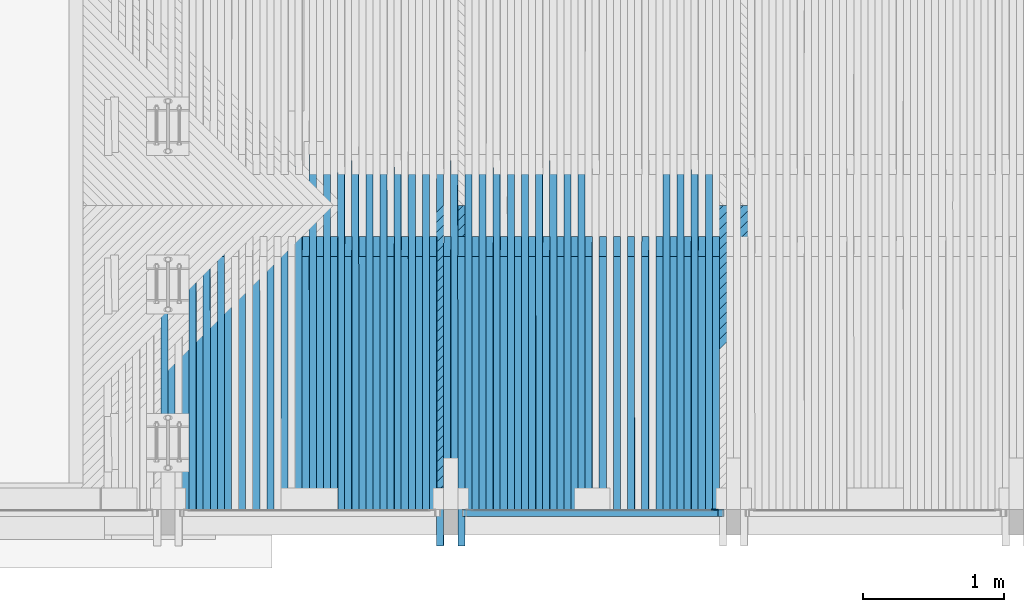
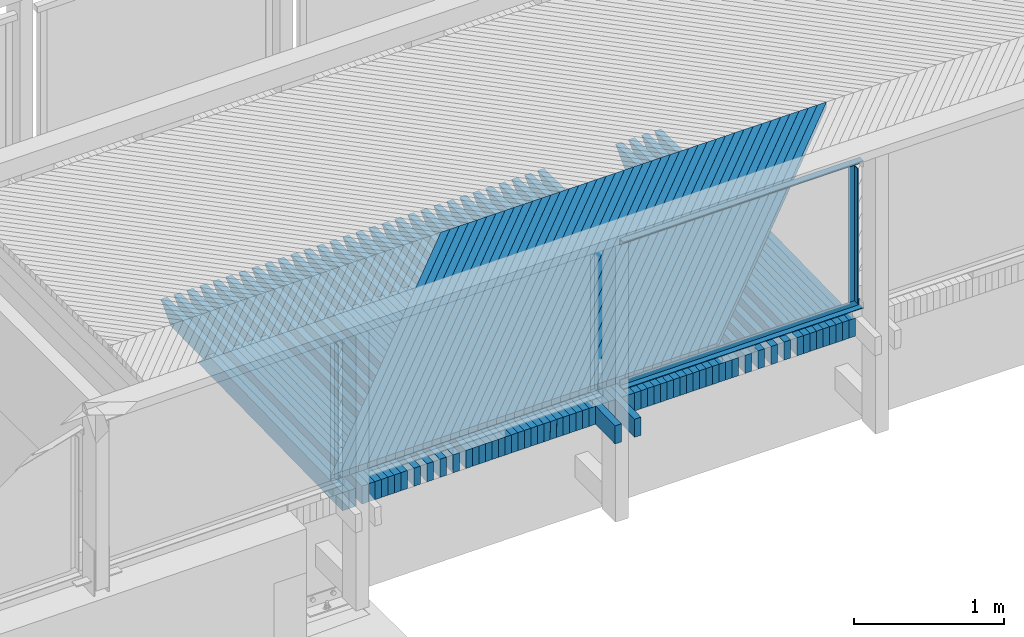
# One storey, part 18 of 65: 113 beams.
"""IFC2X3 building model written with IfcOpenShell, lengths in millimetres."""

from ifc_helpers import new_model, si_unit, frame, origin_with_axes, place, context, subcontext, project, spatial, faceted_brep, material, type_object, element, save


model = new_model("IFC2X3")

# Units and contexts
model_context = context("Model", 3, precision=1e-05, world=origin_with_axes())
body_context = subcontext(model_context, "Body", "Model", "MODEL_VIEW")
ifc_project = project(units=[si_unit("LENGTHUNIT", "METRE", prefix="MILLI"), si_unit("AREAUNIT", "SQUARE_METRE"), si_unit("VOLUMEUNIT", "CUBIC_METRE"), si_unit("MASSUNIT", "GRAM", prefix="KILO"), si_unit("TIMEUNIT", "SECOND"), si_unit("PLANEANGLEUNIT", "RADIAN"), si_unit("SOLIDANGLEUNIT", "STERADIAN"), si_unit("THERMODYNAMICTEMPERATUREUNIT", "DEGREE_CELSIUS"), si_unit("LUMINOUSINTENSITYUNIT", "LUMEN")], contexts=[model_context])

# Site, building, storey
site_placement = place(None, origin_with_axes())
site = spatial("IfcSite", under=ifc_project, at=site_placement, Name="Undefined", CompositionType="ELEMENT")
building_placement = place(site_placement, origin_with_axes())
building = spatial("IfcBuilding", under=site, at=building_placement, Name="Undefined", CompositionType="ELEMENT")
storey_placement = place(building_placement, origin_with_axes())
storey = spatial("IfcBuildingStorey", under=building, at=storey_placement, Name="Undefined", CompositionType="ELEMENT", Elevation=0.0)

# Beams
ifc_material_1 = material(Name="STEEL/S235JR")
beam_type_1 = type_object("IfcBeamType", Name="L50*5", PredefinedType="NOTDEFINED")
beam_1_placement = place(storey_placement, frame((3867.50249484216, 20190.01, 4402.25801106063), z_axis=(0.0, -1.0, 0.0), x_axis=(0.0, 0.0, -1.0)))
element("IfcBeam", 1, at=beam_1_placement, inside=storey, type_object=beam_type_1, material=ifc_material_1, Name="BEAM", ObjectType="L50*5", context=body_context, shape_type="Brep", body=[
    faceted_brep([(0.0, 25.0, -25.0), (0.0, 25.0, 25.0), (1099.9980148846, 25.0, 25.0), (1099.9980148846, 25.0, -25.0), (0.0, 20.0, 25.0), (1099.9980148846, 20.0, 25.0), (0.0, 20.0, -20.0), (1099.9980148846, 20.0, -20.0), (0.0, -25.0, -20.0), (1099.9980148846, -25.0, -20.0), (0.0, -25.0, -25.0), (1099.9980148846, -25.0, -25.0)], [[[0, 1, 2, 3]], [[1, 4, 5, 2]], [[4, 6, 7, 5]], [[6, 8, 9, 7]], [[8, 10, 11, 9]], [[10, 0, 3, 11]], [[5, 7, 9, 11, 3, 2]], [[10, 8, 6, 4, 1, 0]]]),
])
for number, where, z_axis, x_axis, name in (
    (2, (3931.79103918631, 20190.0099999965, 3277.58510184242), (0.0, -1.0, 0.0), (-0.999965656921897, 0.0, -0.00828763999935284), "BEAM"),
    (3, (2083.20214384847, 20190.0099999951, 4412.26318126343), (0.0, -1.0, 0.0), (0.999965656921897, 0.0, 0.00828763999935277), "BEAM"),
):
    element("IfcBeam", number, at=place(storey_placement, frame(where, z_axis=z_axis, x_axis=x_axis)), inside=storey, type_object=beam_type_1, material=ifc_material_1, Name=name, ObjectType="L50*5", context=body_context, shape_type="Brep", body=[
        faceted_brep([(0.0, 25.0, -25.0), (0.0, 25.0, 25.0), (1849.06678002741, 25.0, 25.0), (1849.06678002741, 25.0, -25.0), (0.0, 20.0, 25.0), (1849.06678002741, 20.0, 25.0), (0.0, 20.0, -20.0), (1849.06678002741, 20.0, -20.0), (0.0, -25.0, -20.0), (1849.06678002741, -25.0, -20.0), (0.0, -25.0, -25.0), (1849.06678002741, -25.0, -25.0)], [[[0, 1, 2, 3]], [[1, 4, 5, 2]], [[4, 6, 7, 5]], [[6, 8, 9, 7]], [[8, 10, 11, 9]], [[10, 0, 3, 11]], [[5, 7, 9, 11, 3, 2]], [[10, 8, 6, 4, 1, 0]]]),
    ])
ifc_material_2 = material(Name="TIMBER/Timber_Undefined")
beam_type_2 = type_object("IfcBeamType", Name="50*50", PredefinedType="NOTDEFINED")
for number, where, z_axis, x_axis, name in (
    (4, (1982.89840031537, 22364.5001003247, 3206.05577851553), (0.707207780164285, -0.706981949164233, -0.0058033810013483), (-0.706907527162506, -0.706948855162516, -0.0224736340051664), "BEAM"),
    (5, (2053.61914354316, 22364.5001003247, 3206.75839778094), (0.707207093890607, -0.706981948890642, -0.00588644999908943), (-0.706910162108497, -0.706948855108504, -0.0223906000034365), "BEAM"),
    (6, (2124.3399688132, 22364.5001003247, 3207.45271013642), (0.707206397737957, -0.706981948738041, -0.00596951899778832), (-0.706912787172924, -0.706948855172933, -0.0223075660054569), "BEAM"),
    (7, (2195.06087514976, 22364.5001003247, 3208.13871557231), (0.70720569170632, -0.706981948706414, -0.00605258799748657), (-0.706915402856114, -0.706948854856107, -0.0222245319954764), "BEAM"),
    (8, (2265.78186157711, 22364.5001003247, 3208.8164140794), (0.707204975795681, -0.706981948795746, -0.00613565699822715), (-0.70691800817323, -0.706948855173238, -0.0221414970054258), "BEAM"),
    (9, (2336.5029271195, 22364.5001003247, 3209.48580564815), (0.707204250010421, -0.706981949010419, -0.00621872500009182), (-0.706920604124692, -0.706948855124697, -0.0220584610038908), "BEAM"),
    (10, (2407.22407080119, 22364.5001003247, 3210.14689026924), (0.707203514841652, -0.706981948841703, -0.00630179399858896), (-0.706923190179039, -0.706948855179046, -0.0219754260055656), "BEAM"),
    (11, (2477.94529164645, 22364.5001003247, 3210.79966793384), (0.707202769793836, -0.706981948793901, -0.0063848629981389), (-0.706925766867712, -0.706948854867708, -0.0218923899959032), "BEAM"),
    (12, (4882.50574585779, 22364.5001003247, 3228.05141176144), (0.707171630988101, -0.706981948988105, -0.00920913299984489), (-0.707007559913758, -0.706948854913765, -0.0190689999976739), "BEAM"),
    (13, (4811.78248202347, 22364.5001003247, 3227.68107523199), (0.707172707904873, -0.7069819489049, -0.00912606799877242), (-0.707005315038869, -0.706948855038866, -0.0191520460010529), "BEAM"),
    (14, (4741.05926217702, 22364.5001003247, 3227.30243150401), (0.707173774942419, -0.706981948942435, -0.00904300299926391), (-0.707003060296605, -0.706948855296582, -0.0192350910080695), "BEAM"),
    (15, (4670.33608729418, 22364.5001003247, 3226.91548058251), (0.707174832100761, -0.706981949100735, -0.00895993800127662), (-0.707000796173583, -0.706948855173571, -0.019318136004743), "BEAM"),
    (16, (4599.61295835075, 22364.5001003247, 3226.52022247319), (0.707175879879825, -0.706981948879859, -0.00887687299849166), (-0.706998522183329, -0.706948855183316, -0.0194011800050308), "BEAM"),
    (17, (4528.88987632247, 22364.5001003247, 3226.11665718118), (0.707176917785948, -0.706981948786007, -0.00879380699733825), (-0.706996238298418, -0.706948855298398, -0.0194842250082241), "BEAM"),
    (18, (4458.16684218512, 22364.5001003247, 3225.70478471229), (0.707177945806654, -0.706981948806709, -0.00871074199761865), (-0.706993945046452, -0.706948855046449, -0.0195672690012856), "BEAM"),
    (19, (4387.44385691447, 22364.5001003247, 3225.284605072), (0.707178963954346, -0.70698194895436, -0.00862767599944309), (-0.706991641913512, -0.706948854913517, -0.0196503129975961), "BEAM"),
    (20, (4316.72092148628, 22364.5001003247, 3224.85611826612), (0.707179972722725, -0.706981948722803, -0.00854460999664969), (-0.706989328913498, -0.706948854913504, -0.0197333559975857), "BEAM"),
    (21, (4245.99803687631, 22364.5001003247, 3224.41932430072), (0.707180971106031, -0.706981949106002, -0.0084615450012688), (-0.706987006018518, -0.706948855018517, -0.019816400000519), "BEAM"),
    (22, (4175.27520406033, 22364.5001003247, 3223.97422318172), (0.707181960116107, -0.706981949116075, -0.00837847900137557), (-0.70698467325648, -0.706948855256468, -0.0198994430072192), "BEAM"),
    (23, (4104.5524240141, 22364.5001003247, 3223.52081491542), (0.707182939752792, -0.706981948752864, -0.00829541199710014), (-0.706982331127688, -0.706948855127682, -0.019982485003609), "BEAM"),
    (24, (4033.82969771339, 22364.5001003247, 3223.05909950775), (0.707183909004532, -0.706981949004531, -0.00821234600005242), (-0.706979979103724, -0.70694885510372, -0.0200655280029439), "BEAM"),
    (25, (3963.10702613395, 22364.5001003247, 3222.58907696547), (0.707184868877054, -0.70698194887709, -0.00812927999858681), (-0.706977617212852, -0.706948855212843, -0.0201485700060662), "BEAM"),
    (26, (3892.38441025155, 22364.5001003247, 3222.11074729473), (0.707185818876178, -0.706981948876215, -0.00804621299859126), (-0.706975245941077, -0.70694885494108, -0.0202316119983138), "BEAM"),
    (27, (3821.66185104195, 22364.5001003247, 3221.62411050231), (0.707186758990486, -0.706981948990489, -0.0079631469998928), (-0.706972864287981, -0.706948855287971, -0.020314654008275), "BEAM"),
    (28, (3750.93934948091, 22364.5001003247, 3221.12916659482), (0.707187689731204, -0.706981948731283, -0.00788007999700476), (-0.706970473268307, -0.706948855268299, -0.0203976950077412), "BEAM"),
    (29, (3680.21690654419, 22364.5001003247, 3220.62591557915), (0.707188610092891, -0.706981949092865, -0.00779701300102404), (-0.70696807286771, -0.706948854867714, -0.0204807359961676), "BEAM"),
    (30, (3609.49452320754, 22364.5001003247, 3220.11435746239), (0.707189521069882, -0.706981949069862, -0.00771394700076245), (-0.70696566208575, -0.706948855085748, -0.0205637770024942), "BEAM"),
    (31, (3538.77220044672, 22364.5001003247, 3219.59449225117), (0.707190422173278, -0.706981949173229, -0.00763088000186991), (-0.706963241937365, -0.706948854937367, -0.0206468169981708), "BEAM"),
    (32, (3468.04993923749, 22364.5001003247, 3219.06631995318), (0.707191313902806, -0.706981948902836, -0.00754781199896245), (-0.706960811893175, -0.706948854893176, -0.0207298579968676), "BEAM"),
    (33, (3397.3277405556, 22364.5001003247, 3218.52984057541), (0.707192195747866, -0.706981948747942, -0.00746474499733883), (-0.70695837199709, -0.706948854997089, -0.0208128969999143), "BEAM"),
    (34, (3326.60560537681, 22364.5001003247, 3217.98505412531), (0.707193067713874, -0.70698194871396, -0.00738167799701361), (-0.706955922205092, -0.70694885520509, -0.020895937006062), "BEAM"),
    (35, (3255.88353467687, 22364.5001003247, 3217.43196061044), (0.707193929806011, -0.70698194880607, -0.00729860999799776), (-0.706953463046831, -0.706948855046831, -0.0209789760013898), "BEAM"),
    (36, (3185.16152943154, 22364.5001003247, 3216.87056003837), (0.707194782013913, -0.70698194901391, -0.00721554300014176), (-0.706950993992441, -0.706948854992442, -0.0210620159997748), "BEAM"),
    (37, (3114.43959061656, 22364.5001003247, 3216.30085241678), (0.707195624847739, -0.706981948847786, -0.00713247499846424), (-0.706948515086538, -0.706948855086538, -0.0211450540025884), "BEAM"),
    (38, (3043.7177192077, 22364.5001003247, 3215.72283775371), (0.707196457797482, -0.706981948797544, -0.00704940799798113), (-0.706946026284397, -0.706948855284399, -0.0212280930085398), "BEAM"),
    (39, (2972.99591618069, 22364.5001003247, 3215.13651605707), (0.707197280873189, -0.706981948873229, -0.00696633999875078), (-0.706943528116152, -0.706948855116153, -0.0213111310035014), "BEAM"),
    (40, (2902.27418251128, 22364.5001003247, 3214.5418873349), (0.707198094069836, -0.706981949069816, -0.00688327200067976), (-0.706941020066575, -0.706948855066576, -0.0213941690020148), "BEAM"),
    (41, (2831.55251917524, 22364.5001003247, 3213.93895159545), (0.70719889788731, -0.706981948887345, -0.00680020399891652), (-0.706938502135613, -0.706948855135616, -0.02147720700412), "BEAM"),
    (42, (2760.83092714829, 22364.5001003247, 3213.32770884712), (0.707199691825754, -0.706981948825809, -0.00671713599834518), (-0.706935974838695, -0.706948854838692, -0.0215602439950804), "BEAM"),
    (43, (2690.1094074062, 22364.5001003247, 3212.70815909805), (0.707200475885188, -0.706981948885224, -0.00663406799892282), (-0.70693343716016, -0.706948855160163, -0.0216432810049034), "BEAM"),
    (44, (2619.38796092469, 22364.5001003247, 3212.08030235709), (0.70720125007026, -0.706981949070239, -0.00655099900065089), (-0.706930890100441, -0.706948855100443, -0.0217263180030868), "BEAM"),
    (45, (2548.66658867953, 22364.5001003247, 3211.44413863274), (0.707202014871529, -0.70698194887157, -0.00646793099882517), (-0.706928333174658, -0.706948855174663, -0.0218093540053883), "BEAM"),
):
    element("IfcBeam", number, at=place(storey_placement, frame(where, z_axis=z_axis, x_axis=x_axis)), inside=storey, type_object=beam_type_2, material=ifc_material_2, Name=name, ObjectType="50*50", context=body_context, shape_type="Brep", body=[
        faceted_brep([(24.8942457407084, 25.0000000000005, -25.0000000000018), (-25.0086637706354, 24.9999999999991, 25.0), (2804.3406783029, 25.0, 25.0000000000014), (2854.34301907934, 24.9999999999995, -25.0), (-26.4222658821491, -25.0000000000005, 25.0), (2802.92643296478, -25.0, 25.0000000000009), (23.4806436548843, -24.9999999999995, -25.0000000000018), (2852.92877373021, -25.0000000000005, -24.9999999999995)], [[[0, 1, 2, 3]], [[1, 4, 5, 2]], [[4, 6, 7, 5]], [[6, 0, 3, 7]], [[5, 7, 3, 2]], [[6, 4, 1, 0]]]),
    ])
beam_type_3 = type_object("IfcBeamType", Name="150*50", PredefinedType="NOTDEFINED")
for number, where, z_axis, x_axis, name in (
    (46, (3875.98195239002, 20216.5046076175, 3079.01849258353), (-0.00693257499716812, -0.0199960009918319, 0.99977602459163), (-0.000138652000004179, 0.99980006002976, 0.0199955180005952), "BEAM"),
    (47, (3775.96432395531, 20216.5046076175, 3078.32495570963), (-0.007098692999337, -0.0199960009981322, 0.999774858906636), (-0.00014197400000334, 0.999800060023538, 0.0199954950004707), "BEAM"),
    (48, (3675.94681213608, 20216.5046076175, 3077.61480038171), (-0.00726481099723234, -0.0199960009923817, 0.999773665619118), (-0.000145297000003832, 0.999800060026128, 0.0199954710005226), "BEAM"),
    (49, (3575.92941969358, 20216.5046076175, 3076.88802661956), (-0.00743092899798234, -0.0199960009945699, 0.999772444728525), (-0.000148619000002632, 0.999800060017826, 0.0199954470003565), "BEAM"),
    (50, (3475.91214938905, 20216.5046076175, 3076.1446344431), (-0.00759704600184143, -0.0199960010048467, 0.99977119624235), (-0.000151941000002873, 0.999800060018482, 0.0199954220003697), "BEAM"),
    (51, (3375.89500398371, 20216.5046076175, 3075.38462387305), (-0.00776316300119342, -0.0199960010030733, 0.999769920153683), (-0.000155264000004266, 0.999800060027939, 0.0199953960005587), "BEAM"),
    (52, (3275.87798623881, 20216.5046076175, 3074.60799493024), (-0.0079292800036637, -0.019996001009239, 0.99976861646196), (-0.000158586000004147, 0.999800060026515, 0.0199953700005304), "BEAM"),
    (53, (3175.86109891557, 20216.5046076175, 3073.81474763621), (-0.00809539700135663, -0.0199960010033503, 0.999767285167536), (-0.000161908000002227, 0.999800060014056, 0.0199953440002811), "BEAM"),
    (54, (3075.84434477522, 20216.5046076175, 3073.00488201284), (-0.00826151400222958, -0.0199960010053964, 0.999765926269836), (-0.000165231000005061, 0.999800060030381, 0.0199953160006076), "BEAM"),
    (55, (2975.82772657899, 20216.5046076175, 3072.1783980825), (-0.00842762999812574, -0.0199960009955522, 0.999764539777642), (-0.0001685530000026, 0.999800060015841, 0.0199952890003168), "BEAM"),
    (56, (2875.81124708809, 20216.5046076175, 3071.33529586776), (-0.00859374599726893, -0.0199960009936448, 0.999763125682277), (-0.000171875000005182, 0.999800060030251, 0.019995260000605), "BEAM"),
    (57, (2775.79490906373, 20216.5046076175, 3070.47557539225), (-0.00875986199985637, -0.0199960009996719, 0.999761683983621), (-0.000175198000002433, 0.999800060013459, 0.0199952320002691), "BEAM"),
    (58, (2675.77871526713, 20216.5046076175, 3069.5992366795), (-0.00892597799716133, -0.0199960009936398, 0.999760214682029), (-0.000178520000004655, 0.999800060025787, 0.0199952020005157), "BEAM"),
    (59, (2575.76266845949, 20216.5046076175, 3068.70627975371), (-0.00909209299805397, -0.0199960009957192, 0.999758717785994), (-0.000181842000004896, 0.999800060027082, 0.0199951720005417), "BEAM"),
    (60, (2475.74677140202, 20216.5046076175, 3067.79670463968), (-0.00925820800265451, -0.0199960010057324, 0.999757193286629), (-0.000185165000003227, 0.999800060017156, 0.019995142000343), "BEAM"),
    (61, (2375.73102685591, 20216.5046076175, 3066.87051136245), (-0.00942432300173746, -0.0199960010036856, 0.999755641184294), (-0.000188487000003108, 0.999800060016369, 0.0199951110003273), "BEAM"),
    (62, (2275.71543758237, 20216.5046076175, 3065.9276999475), (-0.00959043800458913, -0.0199960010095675, 0.999754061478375), (-0.00019180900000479, 0.999800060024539, 0.0199950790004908), "BEAM"),
    (63, (2175.70000634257, 20216.5046076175, 3064.96827042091), (-0.00975655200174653, -0.0199960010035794, 0.999752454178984), (-0.00019513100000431, 0.999800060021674, 0.0199950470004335), "BEAM"),
):
    element("IfcBeam", number, at=place(storey_placement, frame(where, z_axis=z_axis, x_axis=x_axis)), inside=storey, type_object=beam_type_3, material=ifc_material_2, Name=name, ObjectType="150*50", context=body_context, shape_type="Brep", body=[
        faceted_brep([(-1.6778358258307e-07, -24.9999999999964, -74.9999999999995), (1.67790858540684e-07, -24.9999999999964, 75.0000000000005), (1.67790858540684e-07, 25.0000000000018, 74.9999999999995), (-1.6778358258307e-07, 25.0000000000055, -75.0), (1928.42646353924, -25.0, -75.0000000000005), (1789.96936433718, -25.0000000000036, 74.9999999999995), (1789.96936408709, 24.9999999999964, 75.0), (1928.42646328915, 24.9999999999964, -75.0)], [[[0, 1, 2, 3]], [[1, 0, 4, 5]], [[2, 1, 5, 6]], [[3, 2, 6, 7]], [[0, 3, 7, 4]], [[7, 6, 5, 4]]]),
    ])
for number, where, z_axis, x_axis, name in (
    (64, (3825.98315440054, 20216.5046076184, 3078.67179443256), (-0.00693257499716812, -0.0199960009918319, 0.99977602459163), (-0.000138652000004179, 0.99980006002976, 0.0199955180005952), "BEAM"),
    (65, (3725.96558426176, 20216.5046076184, 3077.96994999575), (-0.007098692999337, -0.0199960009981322, 0.999774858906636), (-0.00014197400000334, 0.999800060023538, 0.0199954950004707), "BEAM"),
    (66, (3625.9481321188, 20216.5046076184, 3077.25148711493), (-0.00726481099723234, -0.0199960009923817, 0.999773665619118), (-0.000145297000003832, 0.999800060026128, 0.0199954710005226), "BEAM"),
    (67, (3525.93080073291, 20216.5046076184, 3076.51640581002), (-0.00743092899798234, -0.0199960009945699, 0.999772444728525), (-0.000148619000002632, 0.999800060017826, 0.0199954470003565), "BEAM"),
    (68, (2925.82950294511, 20216.5046076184, 3071.75693223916), (-0.00842762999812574, -0.0199960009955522, 0.999764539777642), (-0.0001685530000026, 0.999800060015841, 0.0199952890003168), "BEAM"),
    (69, (2825.81309417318, 20216.5046076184, 3070.90552255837), (-0.00859374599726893, -0.0199960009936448, 0.999763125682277), (-0.000171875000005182, 0.999800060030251, 0.019995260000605), "BEAM"),
    (70, (2725.79682824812, 20216.5046076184, 3070.03749462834), (-0.00875986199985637, -0.0199960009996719, 0.999761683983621), (-0.000175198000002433, 0.999800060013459, 0.0199952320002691), "BEAM"),
    (71, (2625.78070793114, 20216.5046076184, 3069.1528484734), (-0.00892597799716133, -0.0199960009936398, 0.999760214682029), (-0.000178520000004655, 0.999800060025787, 0.0199952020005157), "BEAM"),
    (72, (2525.76473598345, 20216.5046076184, 3068.25158411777), (-0.00909209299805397, -0.0199960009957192, 0.999758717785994), (-0.000181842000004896, 0.999800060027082, 0.0199951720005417), "BEAM"),
    (73, (2425.74891516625, 20216.5046076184, 3067.33370158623), (-0.00925820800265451, -0.0199960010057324, 0.999757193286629), (-0.000185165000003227, 0.999800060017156, 0.019995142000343), "BEAM"),
    (74, (2325.73324824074, 20216.5046076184, 3066.39920090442), (-0.00942432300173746, -0.0199960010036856, 0.999755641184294), (-0.000188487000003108, 0.999800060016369, 0.0199951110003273), "BEAM"),
    (75, (2225.7177379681, 20216.5046076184, 3065.44808209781), (-0.00959043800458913, -0.0199960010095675, 0.999754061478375), (-0.00019180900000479, 0.999800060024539, 0.0199950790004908), "BEAM"),
    (76, (2125.70238710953, 20216.5046076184, 3064.48034519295), (-0.00975655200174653, -0.0199960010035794, 0.999752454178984), (-0.00019513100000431, 0.999800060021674, 0.0199950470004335), "BEAM"),
):
    element("IfcBeam", number, at=place(storey_placement, frame(where, z_axis=z_axis, x_axis=x_axis)), inside=storey, type_object=beam_type_3, material=ifc_material_2, Name=name, ObjectType="150*50", context=body_context, shape_type="Brep", body=[
        faceted_brep([(-1.6778358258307e-07, -24.9999999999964, -74.9999999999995), (1.67790858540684e-07, -24.9999999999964, 75.0000000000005), (1.67790858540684e-07, 25.0000000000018, 74.9999999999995), (-1.6778358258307e-07, 25.0000000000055, -75.0), (2375.00494422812, 25.0000000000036, -75.0), (2375.00494447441, -24.9999999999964, -74.9999999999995), (2510.59248714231, -24.9999999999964, 60.5875430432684), (2150.42514405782, -24.9999999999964, 75.0000000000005), (2150.42515052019, 25.0000000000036, 74.9999999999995), (2510.59248715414, 25.0000000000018, 60.5875433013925)], [[[0, 1, 2, 3]], [[0, 3, 4, 5]], [[1, 0, 5, 6, 7]], [[2, 1, 7, 8]], [[4, 3, 2, 8, 9]], [[5, 4, 9, 6]], [[6, 9, 8, 7]]]),
    ])
beam_2_placement = place(storey_placement, frame((2075.63173701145, 19958.5561921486, 3058.83248374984), z_axis=(-0.00992284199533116, -0.0199960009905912, 0.999750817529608), x_axis=(-0.000198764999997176, 0.999800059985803, 0.0199950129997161)))
element("IfcBeam", 77, at=beam_2_placement, inside=storey, type_object=beam_type_3, material=ifc_material_2, Name="BEAM", ObjectType="150*50", context=body_context, shape_type="Brep", body=[
    faceted_brep([(-1.6778358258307e-07, -24.9999999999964, -74.9999999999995), (1.67790858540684e-07, -24.9999999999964, 75.0000000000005), (1.67790858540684e-07, 25.0000000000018, 74.9999999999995), (-1.6778358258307e-07, 25.0000000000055, -75.0), (2186.42645144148, -25.0000000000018, -75.0), (2047.96935255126, -25.0000000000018, 75.0000000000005), (2047.9693678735, 24.9999999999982, 75.0), (2186.42646676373, 24.9999999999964, -74.9999999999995)], [[[0, 1, 2, 3]], [[1, 0, 4, 5]], [[2, 1, 5, 6]], [[3, 2, 6, 7]], [[0, 3, 7, 4]], [[7, 6, 5, 4]]]),
])
beam_3_placement = place(storey_placement, frame((1925.61917607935, 19958.5561921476, 3057.33525195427), z_axis=(-0.0100889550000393, -0.0199960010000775, 0.9997491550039), x_axis=(-0.000201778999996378, 0.999800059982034, 0.0199949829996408)))
element("IfcBeam", 78, at=beam_3_placement, inside=storey, type_object=beam_type_3, material=ifc_material_2, Name="BEAM", ObjectType="150*50", context=body_context, shape_type="Brep", body=[
    faceted_brep([(-1.6778358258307e-07, -24.9999999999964, -74.9999999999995), (1.67790858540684e-07, -24.9999999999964, 75.0000000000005), (1.67790858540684e-07, 25.0000000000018, 74.9999999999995), (-1.6778358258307e-07, 25.0000000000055, -75.0), (2633.00494750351, 24.9999999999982, -74.9999999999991), (2633.00494763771, -25.0000000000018, -74.9999999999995), (2768.59248713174, -25.0000000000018, 60.5875397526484), (2408.42500011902, -25.0, 75.0), (2408.42500056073, 25.0, 75.0), (2768.59248710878, 24.9999999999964, 60.587539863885)], [[[0, 1, 2, 3]], [[0, 3, 4, 5]], [[1, 0, 5, 6, 7]], [[2, 1, 7, 8]], [[4, 3, 2, 8, 9]], [[5, 4, 9, 6]], [[8, 7, 6, 9]]]),
])
for number, where, z_axis, x_axis, name in (
    (79, (1975.66962900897, 20216.5046076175, 3062.99955713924), (-0.0100889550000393, -0.0199960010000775, 0.9997491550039), (-0.000201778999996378, 0.999800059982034, 0.0199949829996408), "BEAM"),
    (80, (1875.65468843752, 20216.5046076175, 3061.99027343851), (-0.010254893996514, -0.0199960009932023, 0.999747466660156), (-0.000205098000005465, 0.999800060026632, 0.0199949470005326), "BEAM"),
    (81, (1775.63991694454, 20216.5046076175, 3060.964371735), (-0.0104210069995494, -0.0199960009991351, 0.999745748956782), (-0.000208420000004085, 0.999800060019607, 0.0199949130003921), "BEAM"),
    (82, (1675.6253172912, 20216.5046076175, 3059.92185205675), (-0.0105871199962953, -0.0199960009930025, 0.99974400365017), (-0.000211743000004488, 0.999800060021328, 0.0199948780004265), "BEAM"),
    (83, (1575.61089223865, 20216.5046076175, 3058.86271443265), (-0.0107532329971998, -0.0199960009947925, 0.999742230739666), (-0.00021506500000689, 0.999800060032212, 0.0199948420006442), "BEAM"),
    (84, (1475.59664454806, 20216.5046076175, 3057.78695889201), (-0.010919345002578, -0.0199960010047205, 0.999740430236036), (-0.000218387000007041, 0.999800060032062, 0.0199948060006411), "BEAM"),
    (85, (1375.58257698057, 20216.5046076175, 3056.69458546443), (-0.011085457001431, -0.019996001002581, 0.999738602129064), (-0.00022170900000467, 0.999800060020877, 0.0199947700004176), "BEAM"),
    (86, (1275.56869229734, 20216.5046076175, 3055.58559418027), (-0.0112515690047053, -0.0199960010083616, 0.999736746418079), (-0.000225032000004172, 0.999800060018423, 0.0199947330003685), "BEAM"),
    (87, (1175.55499325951, 20216.5046076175, 3054.45998506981), (-0.0114176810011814, -0.0199960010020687, 0.999734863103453), (-0.000228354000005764, 0.999800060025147, 0.0199946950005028), "BEAM"),
    (88, (1075.54148262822, 20216.5046076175, 3053.31775816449), (-0.0115837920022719, -0.0199960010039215, 0.999732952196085), (-0.000231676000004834, 0.999800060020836, 0.0199946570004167), "BEAM"),
    (89, (975.528163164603, 20216.5046076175, 3052.1589134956), (-0.011749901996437, -0.019996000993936, 0.999731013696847), (-0.000234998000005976, 0.99980006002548, 0.0199946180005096), "BEAM"),
    (90, (375.452415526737, 20216.5046076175, 3044.85687427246), (-0.0127465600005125, -0.0199960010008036, 0.9997188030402), (-0.000254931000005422, 0.999800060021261, 0.0199943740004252), "BEAM"),
    (91, (275.44051154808, 20216.5046076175, 3043.58170618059), (-0.0129126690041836, -0.0199960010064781, 0.999716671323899), (-0.000258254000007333, 0.99980006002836, 0.0199943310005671), "BEAM"),
    (92, (175.42882082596, 20216.5046076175, 3042.28992059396), (-0.0130787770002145, -0.0199960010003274, 0.999714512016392), (-0.00026157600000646, 0.999800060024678, 0.0199942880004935), "BEAM"),
):
    element("IfcBeam", number, at=place(storey_placement, frame(where, z_axis=z_axis, x_axis=x_axis)), inside=storey, type_object=beam_type_3, material=ifc_material_2, Name=name, ObjectType="150*50", context=body_context, shape_type="Brep", body=[
        faceted_brep([(-1.6778358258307e-07, -24.9999999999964, -74.9999999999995), (1.67790858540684e-07, -24.9999999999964, 75.0000000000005), (1.67790858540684e-07, 25.0000000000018, 74.9999999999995), (-1.6778358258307e-07, 25.0000000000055, -75.0), (1928.42646353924, -25.0, -75.0000000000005), (1789.96936433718, -25.0000000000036, 74.9999999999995), (1789.96936408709, 24.9999999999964, 75.0), (1928.42646328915, 24.9999999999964, -75.0)], [[[0, 1, 2, 3]], [[1, 0, 4, 5]], [[2, 1, 5, 6]], [[3, 2, 6, 7]], [[0, 3, 7, 4]], [[7, 6, 5, 4]]]),
    ])
for number, where, z_axis, x_axis, name in (
    (93, (2025.68719842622, 20216.5046076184, 3063.49599021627), (-0.00992284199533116, -0.0199960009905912, 0.999750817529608), (-0.000198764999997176, 0.999800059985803, 0.0199950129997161), "BEAM"),
    (94, (1825.65731863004, 20216.5046076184, 3061.47742615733), (-0.010254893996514, -0.0199960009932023, 0.999747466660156), (-0.000205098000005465, 0.999800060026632, 0.0199949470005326), "BEAM"),
    (95, (1725.64263303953, 20216.5046076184, 3060.44321713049), (-0.0104210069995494, -0.0199960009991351, 0.999745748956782), (-0.000208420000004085, 0.999800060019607, 0.0199949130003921), "BEAM"),
    (96, (1625.62812066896, 20216.5046076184, 3059.39239014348), (-0.0105871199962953, -0.0199960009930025, 0.99974400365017), (-0.000211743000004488, 0.999800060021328, 0.0199948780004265), "BEAM"),
    (97, (1525.61378427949, 20216.5046076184, 3058.32494522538), (-0.0107532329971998, -0.0199960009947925, 0.999742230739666), (-0.00021506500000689, 0.999800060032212, 0.0199948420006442), "BEAM"),
    (98, (1425.59962663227, 20216.5046076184, 3057.24088240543), (-0.010919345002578, -0.0199960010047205, 0.999740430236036), (-0.000218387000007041, 0.999800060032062, 0.0199948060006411), "BEAM"),
    (99, (1325.58565048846, 20216.5046076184, 3056.14020171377), (-0.011085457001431, -0.019996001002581, 0.999738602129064), (-0.00022170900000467, 0.999800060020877, 0.0199947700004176), "BEAM"),
    (100, (1225.57185860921, 20216.5046076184, 3055.02290318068), (-0.0112515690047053, -0.0199960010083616, 0.999736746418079), (-0.000225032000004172, 0.999800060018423, 0.0199947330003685), "BEAM"),
    (101, (1125.55825375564, 20216.5046076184, 3053.888986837), (-0.0114176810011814, -0.0199960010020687, 0.999734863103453), (-0.000228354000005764, 0.999800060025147, 0.0199946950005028), "BEAM"),
    (102, (1025.5448386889, 20216.5046076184, 3052.73845271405), (-0.0115837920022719, -0.0199960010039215, 0.999732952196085), (-0.000231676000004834, 0.999800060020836, 0.0199946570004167), "BEAM"),
    (103, (925.531616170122, 20216.5046076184, 3051.5713008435), (-0.011749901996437, -0.019996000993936, 0.999731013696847), (-0.000234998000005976, 0.99980006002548, 0.0199946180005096), "BEAM"),
    (104, (825.518588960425, 20216.5046076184, 3050.38753125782), (-0.0119160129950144, -0.0199960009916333, 0.999729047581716), (-0.000238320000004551, 0.99980006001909, 0.0199945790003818), "BEAM"),
    (105, (725.505759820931, 20216.5046076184, 3049.18714398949), (-0.0120821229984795, -0.019996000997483, 0.999727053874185), (-0.000241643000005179, 0.999800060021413, 0.0199945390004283), "BEAM"),
    (106, (625.493131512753, 20216.5046076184, 3047.97013907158), (-0.0122482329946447, -0.0199960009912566, 0.999725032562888), (-0.000244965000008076, 0.99980006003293, 0.0199944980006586), "BEAM"),
    (107, (525.480706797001, 20216.5046076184, 3046.73651653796), (-0.012414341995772, -0.0199960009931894, 0.99972298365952), (-0.000248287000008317, 0.999800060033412, 0.0199944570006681), "BEAM"),
    (108, (425.468488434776, 20216.5046076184, 3045.48627642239), (-0.0125804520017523, -0.0199960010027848, 0.999720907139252), (-0.000251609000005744, 0.999800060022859, 0.0199944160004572), "BEAM"),
    (109, (325.456479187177, 20216.5046076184, 3044.21941875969), (-0.0127465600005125, -0.0199960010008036, 0.9997188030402), (-0.000254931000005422, 0.999800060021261, 0.0199943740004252), "BEAM"),
    (110, (225.444681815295, 20216.5046076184, 3042.93594358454), (-0.0129126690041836, -0.0199960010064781, 0.999716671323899), (-0.000258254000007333, 0.99980006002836, 0.0199943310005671), "BEAM"),
    (111, (125.433099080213, 20216.5046076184, 3041.63585093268), (-0.0130787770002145, -0.0199960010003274, 0.999714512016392), (-0.00026157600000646, 0.999800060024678, 0.0199942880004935), "BEAM"),
):
    element("IfcBeam", number, at=place(storey_placement, frame(where, z_axis=z_axis, x_axis=x_axis)), inside=storey, type_object=beam_type_3, material=ifc_material_2, Name=name, ObjectType="150*50", context=body_context, shape_type="Brep", body=[
        faceted_brep([(-1.6778358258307e-07, -24.9999999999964, -74.9999999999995), (1.67790858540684e-07, -24.9999999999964, 75.0000000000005), (1.67790858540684e-07, 25.0000000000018, 74.9999999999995), (-1.6778358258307e-07, 25.0000000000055, -75.0), (2375.00494422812, 25.0000000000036, -75.0), (2375.00494447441, -24.9999999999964, -74.9999999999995), (2510.59248714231, -24.9999999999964, 60.5875430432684), (2150.42514405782, -24.9999999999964, 75.0000000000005), (2150.42515052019, 25.0000000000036, 74.9999999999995), (2510.59248715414, 25.0000000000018, 60.5875433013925)], [[[0, 1, 2, 3]], [[0, 3, 4, 5]], [[1, 0, 5, 6, 7]], [[2, 1, 7, 8]], [[4, 3, 2, 8, 9]], [[5, 4, 9, 6]], [[6, 9, 8, 7]]]),
    ])
beam_4_placement = place(storey_placement, frame((-24.5939098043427, 20216.5046076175, 3039.65649707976), z_axis=(-0.0134109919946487, -0.0199960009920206, 0.999710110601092), x_axis=(-0.00026822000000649, 0.999800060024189, 0.0199942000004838)))
element("IfcBeam", 112, at=beam_4_placement, inside=storey, type_object=beam_type_3, material=ifc_material_2, Name="BEAM", ObjectType="150*50", context=body_context, shape_type="Brep", body=[
    faceted_brep([(-1.6778358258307e-07, -24.9999999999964, -74.9999999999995), (1.67790858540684e-07, -24.9999999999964, 75.0000000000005), (1.67790858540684e-07, 25.0000000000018, 74.9999999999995), (-1.6778358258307e-07, 25.0000000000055, -75.0), (1928.42646353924, -25.0, -75.0000000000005), (1789.96936433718, -25.0000000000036, 74.9999999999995), (1789.96936408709, 24.9999999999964, 75.0), (1928.42646328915, 24.9999999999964, -75.0)], [[[0, 1, 2, 3]], [[1, 0, 4, 5]], [[2, 1, 5, 6]], [[3, 2, 6, 7]], [[0, 3, 7, 4]], [[7, 6, 5, 4]]]),
])
beam_5_placement = place(storey_placement, frame((25.4217337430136, 20216.5046076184, 3040.31914083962), z_axis=(-0.0132448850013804, -0.0199960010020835, 0.99971232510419), x_axis=(-0.0002652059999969, 0.999800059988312, 0.0199942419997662)))
element("IfcBeam", 113, at=beam_5_placement, inside=storey, type_object=beam_type_3, material=ifc_material_2, Name="BEAM", ObjectType="150*50", context=body_context, shape_type="Brep", body=[
    faceted_brep([(-1.6778358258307e-07, -24.9999999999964, -74.9999999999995), (1.67790858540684e-07, -24.9999999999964, 75.0000000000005), (1.67790858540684e-07, 25.0000000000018, 74.9999999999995), (-1.6778358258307e-07, 25.0000000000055, -75.0), (2375.00494422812, 25.0000000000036, -75.0), (2375.00494447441, -24.9999999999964, -74.9999999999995), (2510.59248714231, -24.9999999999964, 60.5875430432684), (2150.42514405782, -24.9999999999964, 75.0000000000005), (2150.42515052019, 25.0000000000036, 74.9999999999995), (2510.59248715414, 25.0000000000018, 60.5875433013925)], [[[0, 1, 2, 3]], [[0, 3, 4, 5]], [[1, 0, 5, 6, 7]], [[2, 1, 7, 8]], [[4, 3, 2, 8, 9]], [[5, 4, 9, 6]], [[6, 9, 8, 7]]]),
])

save(model, "model.ifc")
